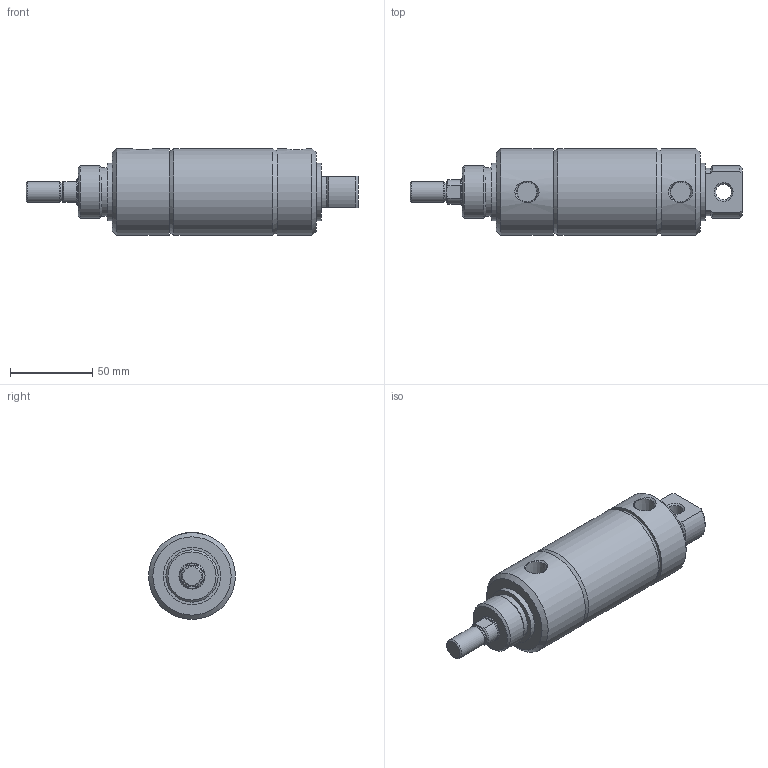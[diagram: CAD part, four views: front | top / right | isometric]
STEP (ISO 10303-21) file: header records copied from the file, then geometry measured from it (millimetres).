
FILE_DESCRIPTION( ( 'STEP AP214' ), '1' );
FILE_NAME( 'p:/temp/worker_474/temp/exporttempdir_78228_235_e12AY/format_0/2000D02-01A-03.stp', '2020-05-07T19:17:48', ( 'License CC BY-ND 4.0' ), ( 'CADENAS' ), ' ', 'PARTsolutions', ' ' );
FILE_SCHEMA( ( 'AUTOMOTIVE_DESIGN { 1 0 10303 214 1 1 1 1 }' ) );
Length unit declared in the file: inch
Products named in the file (3): 2000D02-01A-03; _2000D02-01A-0300A00A0b; _2000D02-01A-0300A00A0r
Assembly tree (2 placements, depth 2):
  2000D02-01A-03
    _2000D02-01A-0300A00A0b
    _2000D02-01A-0300A00A0r
Bounding box: 201.63 x 52.78 x 52.78 mm (x, y, z)
Volume: 251991.3 mm3; surface area: 62363.3 mm2
Topology: 2 solids, 2 shells, 65 faces, 127 edges, 79 vertices
Faces by surface type: plane 23, cone 21, cylinder 21
Full cylindrical faces by diameter (mm): 9.525 x1, 11.189 x1, 12.7 x1, 15.875 x3, 29.23 x1, 31.75 x1, 34.925 x2, 50.8 x2, 52.578 x1, 52.781 x2
Entity records: 2254 total; most frequent: CARTESIAN_POINT 454, DIRECTION 276, ORIENTED_EDGE 188, AXIS2_PLACEMENT_3D 128, EDGE_LOOP 110, EDGE_CURVE 94, FACE_OUTER_BOUND 80, VERTEX_POINT 76
